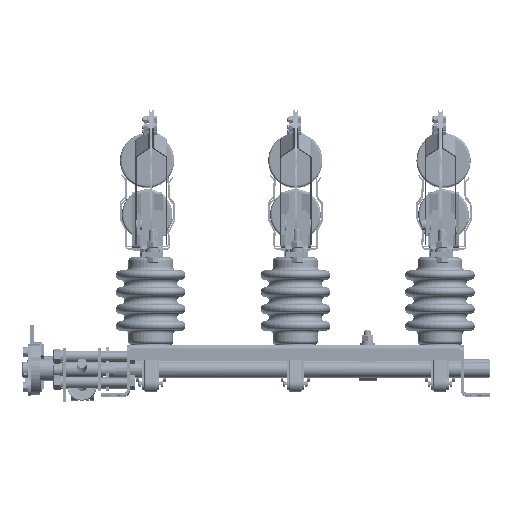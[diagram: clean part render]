
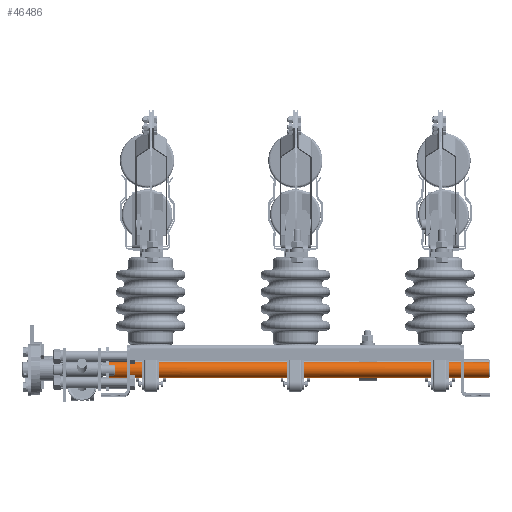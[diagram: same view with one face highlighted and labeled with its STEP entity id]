
A CAD part, top view. The second image highlights one B-rep face of the part: STEP entity #46486.
In plain terms, the highlighted cylindrical face has radius 11 mm (diameter 22 mm), a full revolution.
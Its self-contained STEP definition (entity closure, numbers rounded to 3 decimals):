
#9605 = CARTESIAN_POINT ( 'NONE',  ( 267.622, 36.004, 296.018 ) ) ;
#15753 = VERTEX_POINT ( 'NONE', #42629 ) ;
#17889 = DIRECTION ( 'NONE',  ( 0., 0.576, -0.817 ) ) ;
#24930 = EDGE_CURVE ( 'NONE', #71391, #76101, #186865, .T. ) ;
#26602 = DIRECTION ( 'NONE',  ( 0., -0.576, 0.817 ) ) ;
#42629 = CARTESIAN_POINT ( 'NONE',  ( -258.378, 36.004, 307.018 ) ) ;
#46486 = ADVANCED_FACE ( 'NONE', ( #150170, #195220 ), #189863, .T. ) ;
#48106 = EDGE_CURVE ( 'NONE', #76101, #71391, #49253, .T. ) ;
#49253 = CIRCLE ( 'NONE', #85647, 11. ) ;
#58931 = AXIS2_PLACEMENT_3D ( 'NONE', #136350, #170388, #17889 ) ;
#64897 = DIRECTION ( 'NONE',  ( -1., 0., 0. ) ) ;
#70420 = DIRECTION ( 'NONE',  ( 1., 0., 0. ) ) ;
#71391 = VERTEX_POINT ( 'NONE', #169214 ) ;
#76101 = VERTEX_POINT ( 'NONE', #174605 ) ;
#85647 = AXIS2_PLACEMENT_3D ( 'NONE', #171865, #70420, #188892 ) ;
#128048 = DIRECTION ( 'NONE',  ( 1., 0., 0. ) ) ;
#130607 = ORIENTED_EDGE ( 'NONE', *, *, #156061, .F. ) ;
#136350 = CARTESIAN_POINT ( 'NONE',  ( -261.378, 36.004, 296.018 ) ) ;
#139036 = ORIENTED_EDGE ( 'NONE', *, *, #48106, .F. ) ;
#145304 = AXIS2_PLACEMENT_3D ( 'NONE', #9605, #128048, #26602 ) ;
#150170 = FACE_OUTER_BOUND ( 'NONE', #173612, .T. ) ;
#156061 = EDGE_CURVE ( 'NONE', #15753, #15753, #162662, .T. ) ;
#162662 = CIRCLE ( 'NONE', #180011, 11. ) ;
#166341 = CARTESIAN_POINT ( 'NONE',  ( -258.378, 36.004, 296.018 ) ) ;
#169214 = CARTESIAN_POINT ( 'NONE',  ( 267.622, 29.668, 305.01 ) ) ;
#170388 = DIRECTION ( 'NONE',  ( 1., 0., 0. ) ) ;
#171865 = CARTESIAN_POINT ( 'NONE',  ( 267.622, 36.004, 296.018 ) ) ;
#173612 = EDGE_LOOP ( 'NONE', ( #130607 ) ) ;
#174605 = CARTESIAN_POINT ( 'NONE',  ( 267.622, 42.34, 287.026 ) ) ;
#180011 = AXIS2_PLACEMENT_3D ( 'NONE', #166341, #64897, #183335 ) ;
#183335 = DIRECTION ( 'NONE',  ( 0., 0., 1. ) ) ;
#186865 = CIRCLE ( 'NONE', #145304, 11. ) ;
#188892 = DIRECTION ( 'NONE',  ( 0., 0.576, -0.817 ) ) ;
#189863 = CYLINDRICAL_SURFACE ( 'NONE', #58931, 11. ) ;
#194049 = ORIENTED_EDGE ( 'NONE', *, *, #24930, .F. ) ;
#195220 = FACE_OUTER_BOUND ( 'NONE', #197554, .T. ) ;
#197554 = EDGE_LOOP ( 'NONE', ( #194049, #139036 ) ) ;
